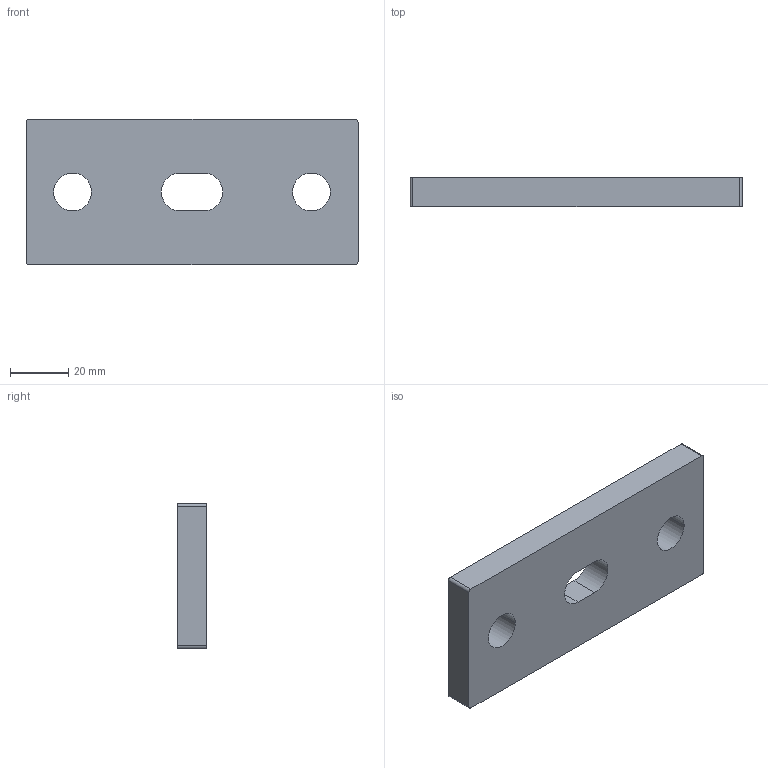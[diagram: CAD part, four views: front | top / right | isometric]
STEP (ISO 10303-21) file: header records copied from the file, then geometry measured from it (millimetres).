
FILE_DESCRIPTION((''),'2;1');
FILE_NAME('U8_BUSBAR','2018-06-04T',('HHI'),(''),'PRO/ENGINEER BY PARAMETRIC TECHNOLOGY CORPORATION, 2012453','PRO/ENGINEER BY PARAMETRIC TECHNOLOGY CORPORATION, 2012453','');
FILE_SCHEMA(('CONFIG_CONTROL_DESIGN'));
Length unit declared in the file: millimetre
Products named in the file (1): U8_BUSBAR
Bounding box: 114 x 10 x 50 mm (x, y, z)
Volume: 51969.4 mm3; surface area: 15041.9 mm2
Topology: 1 solids, 1 shells, 18 faces, 48 edges, 32 vertices
Faces by surface type: cylinder 10, plane 8
Entity records: 622 total; most frequent: DIRECTION 104, CARTESIAN_POINT 98, ORIENTED_EDGE 96, EDGE_CURVE 48, AXIS2_PLACEMENT_3D 38, VERTEX_POINT 32, VECTOR 28, LINE 28
